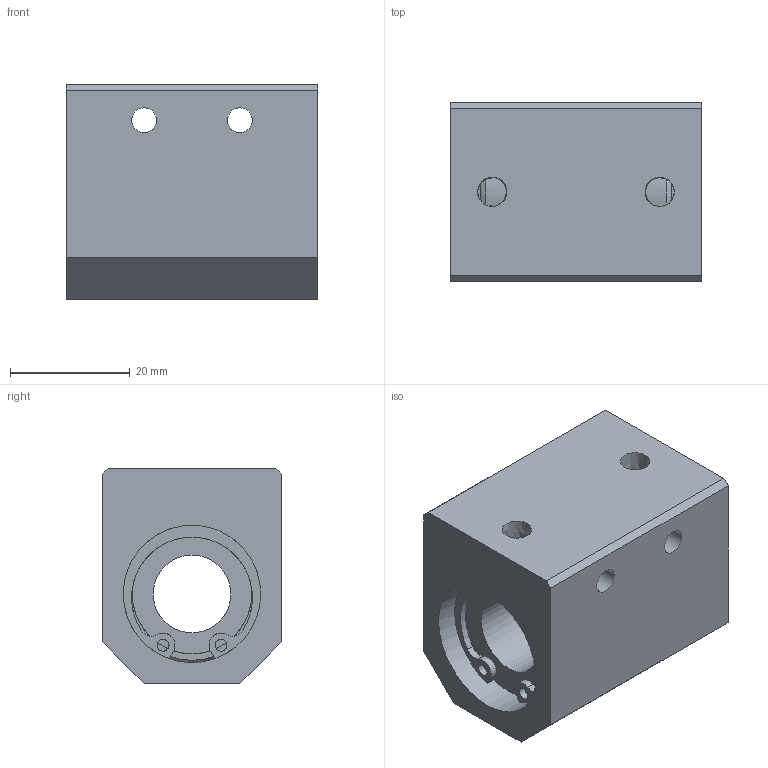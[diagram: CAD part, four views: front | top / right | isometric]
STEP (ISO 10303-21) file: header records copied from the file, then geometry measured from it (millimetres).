
FILE_DESCRIPTION((''),'2;1');
FILE_NAME('D:\製品 (図面)\カタログ用3D\リニアベアリング関連(改)\STEP形式\CH\CH13.stp','2010-01-25T09:33:49',('Tsuchiya'),(''),'Autodesk Inventor 10','Autodesk Inventor 10','');
FILE_SCHEMA(('AUTOMOTIVE_DESIGN { 1 0 10303 214 1 1 1 1 }'));
Length unit declared in the file: millimetre
Products named in the file (1): CH13
Bounding box: 42 x 30 x 36 mm (x, y, z)
Volume: 33307.2 mm3; surface area: 11067.9 mm2
Topology: 1 solids, 3 shells, 79 faces, 207 edges, 128 vertices
Faces by surface type: plane 33, bspline 23, cylinder 21, torus 2
Full cylindrical faces by diameter (mm): 2 x2, 13 x1, 20 x2, 22 x2, 23 x4
Entity records: 2549 total; most frequent: CARTESIAN_POINT 759, DIRECTION 374, ORIENTED_EDGE 340, EDGE_CURVE 170, AXIS2_PLACEMENT_3D 159, EDGE_LOOP 118, VERTEX_POINT 114, CIRCLE 104
